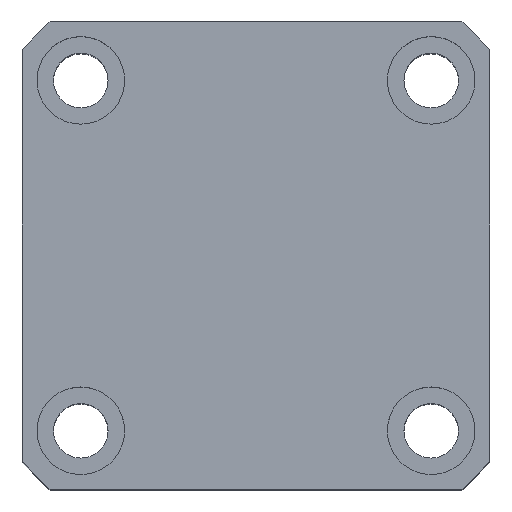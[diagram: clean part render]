
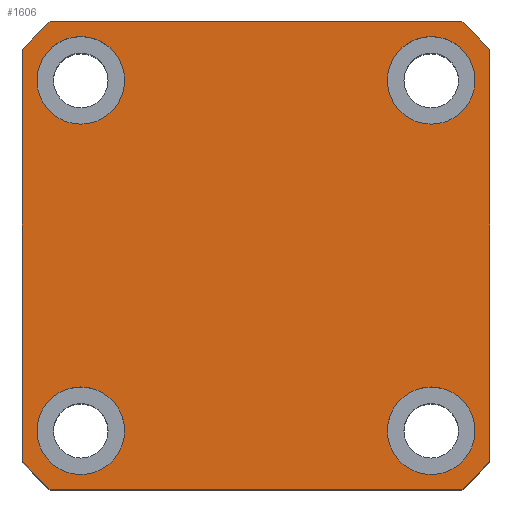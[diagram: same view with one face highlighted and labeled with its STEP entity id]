
A CAD part, top view. The second image highlights one B-rep face of the part: STEP entity #1606.
In plain terms, the highlighted planar face has unit normal (0, 0, 1) as drawn and (1, 0, 0) by its records, which use the part's own axes.
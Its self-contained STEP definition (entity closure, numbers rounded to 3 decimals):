
#10 = DIRECTION ( 'NONE',  ( 0., 0., -1. ) ) ;
#112 = DIRECTION ( 'NONE',  ( 0., 0., -1. ) ) ;
#139 = DIRECTION ( 'NONE',  ( 1., 0., 0. ) ) ;
#158 = CIRCLE ( 'NONE', #402, 4.5 ) ;
#237 = AXIS2_PLACEMENT_3D ( 'NONE', #4904, #1253, #5522 ) ;
#326 = EDGE_CURVE ( 'NONE', #3484, #3217, #6495, .T. ) ;
#402 = AXIS2_PLACEMENT_3D ( 'NONE', #5398, #1760, #6023 ) ;
#452 = DIRECTION ( 'NONE',  ( 0., 1., 0. ) ) ;
#624 = DIRECTION ( 'NONE',  ( 1., 0., 0. ) ) ;
#652 = CARTESIAN_POINT ( 'NONE',  ( 50., 21.166, -24. ) ) ;
#682 = DIRECTION ( 'NONE',  ( 0., -1., 0. ) ) ;
#771 = VERTEX_POINT ( 'NONE', #6546 ) ;
#819 = CARTESIAN_POINT ( 'NONE',  ( 50., 24., 24. ) ) ;
#837 = VERTEX_POINT ( 'NONE', #5995 ) ;
#841 = VERTEX_POINT ( 'NONE', #7854 ) ;
#951 = CIRCLE ( 'NONE', #4304, 4.5 ) ;
#952 = VERTEX_POINT ( 'NONE', #3836 ) ;
#1176 = EDGE_LOOP ( 'NONE', ( #1892, #1495 ) ) ;
#1179 = VERTEX_POINT ( 'NONE', #2577 ) ;
#1253 = DIRECTION ( 'NONE',  ( 1., 0., 0. ) ) ;
#1277 = CARTESIAN_POINT ( 'NONE',  ( 50., 18., 18. ) ) ;
#1362 = FACE_BOUND ( 'NONE', #7039, .T. ) ;
#1448 = CIRCLE ( 'NONE', #1678, 4.5 ) ;
#1465 = DIRECTION ( 'NONE',  ( 1., 0., 0. ) ) ;
#1470 = CARTESIAN_POINT ( 'NONE',  ( 50., 0., 0. ) ) ;
#1495 = ORIENTED_EDGE ( 'NONE', *, *, #3975, .F. ) ;
#1510 = AXIS2_PLACEMENT_3D ( 'NONE', #7493, #3852, #112 ) ;
#1520 = CARTESIAN_POINT ( 'NONE',  ( 50., 0., 0. ) ) ;
#1606 = ADVANCED_FACE ( 'NONE', ( #3040, #7691, #1362, #1941, #6050 ), #6943, .T. ) ;
#1678 = AXIS2_PLACEMENT_3D ( 'NONE', #4338, #624, #4914 ) ;
#1696 = EDGE_CURVE ( 'NONE', #6826, #2428, #2833, .T. ) ;
#1747 = VECTOR ( 'NONE', #10, 1000. ) ;
#1760 = DIRECTION ( 'NONE',  ( 1., 0., 0. ) ) ;
#1835 = AXIS2_PLACEMENT_3D ( 'NONE', #3167, #7406, #3778 ) ;
#1880 = CARTESIAN_POINT ( 'NONE',  ( 50., -24., 24. ) ) ;
#1892 = ORIENTED_EDGE ( 'NONE', *, *, #2906, .F. ) ;
#1896 = DIRECTION ( 'NONE',  ( 0., 0., -1. ) ) ;
#1940 = VERTEX_POINT ( 'NONE', #4156 ) ;
#1941 = FACE_BOUND ( 'NONE', #5322, .T. ) ;
#1972 = ORIENTED_EDGE ( 'NONE', *, *, #4569, .F. ) ;
#2022 = VERTEX_POINT ( 'NONE', #652 ) ;
#2091 = DIRECTION ( 'NONE',  ( 0., 0., -1. ) ) ;
#2149 = DIRECTION ( 'NONE',  ( 0., 0., -1. ) ) ;
#2162 = DIRECTION ( 'NONE',  ( 1., 0., 0. ) ) ;
#2163 = ORIENTED_EDGE ( 'NONE', *, *, #3176, .F. ) ;
#2164 = DIRECTION ( 'NONE',  ( 0., 0., 1. ) ) ;
#2251 = AXIS2_PLACEMENT_3D ( 'NONE', #1277, #5547, #1896 ) ;
#2264 = ORIENTED_EDGE ( 'NONE', *, *, #3433, .F. ) ;
#2369 = ORIENTED_EDGE ( 'NONE', *, *, #7122, .F. ) ;
#2428 = VERTEX_POINT ( 'NONE', #5280 ) ;
#2566 = ORIENTED_EDGE ( 'NONE', *, *, #3278, .F. ) ;
#2577 = CARTESIAN_POINT ( 'NONE',  ( 50., -18., -13.5 ) ) ;
#2626 = EDGE_CURVE ( 'NONE', #3205, #6416, #5352, .T. ) ;
#2664 = ORIENTED_EDGE ( 'NONE', *, *, #3541, .T. ) ;
#2767 = CARTESIAN_POINT ( 'NONE',  ( 50., -18., 13.5 ) ) ;
#2795 = CARTESIAN_POINT ( 'NONE',  ( 50., 24., 24. ) ) ;
#2833 = LINE ( 'NONE', #2795, #5653 ) ;
#2906 = EDGE_CURVE ( 'NONE', #837, #1179, #951, .T. ) ;
#2963 = ORIENTED_EDGE ( 'NONE', *, *, #1696, .T. ) ;
#2968 = ORIENTED_EDGE ( 'NONE', *, *, #326, .T. ) ;
#3040 = FACE_BOUND ( 'NONE', #1176, .T. ) ;
#3055 = AXIS2_PLACEMENT_3D ( 'NONE', #3400, #7648, #3998 ) ;
#3166 = ORIENTED_EDGE ( 'NONE', *, *, #4031, .T. ) ;
#3167 = CARTESIAN_POINT ( 'NONE',  ( 50., 18., -18. ) ) ;
#3176 = EDGE_CURVE ( 'NONE', #7311, #771, #158, .T. ) ;
#3205 = VERTEX_POINT ( 'NONE', #6003 ) ;
#3217 = VERTEX_POINT ( 'NONE', #4262 ) ;
#3278 = EDGE_CURVE ( 'NONE', #952, #5908, #1448, .T. ) ;
#3284 = CARTESIAN_POINT ( 'NONE',  ( 50., 18., -18. ) ) ;
#3295 = VECTOR ( 'NONE', #682, 1000. ) ;
#3384 = CARTESIAN_POINT ( 'NONE',  ( 50., 21.166, 24. ) ) ;
#3400 = CARTESIAN_POINT ( 'NONE',  ( 50., -18., 18. ) ) ;
#3433 = EDGE_CURVE ( 'NONE', #7489, #841, #7187, .T. ) ;
#3435 = CIRCLE ( 'NONE', #1835, 4.5 ) ;
#3484 = VERTEX_POINT ( 'NONE', #3384 ) ;
#3541 = EDGE_CURVE ( 'NONE', #2022, #6826, #5552, .T. ) ;
#3550 = ORIENTED_EDGE ( 'NONE', *, *, #7112, .F. ) ;
#3577 = CARTESIAN_POINT ( 'NONE',  ( 50., 24., -24. ) ) ;
#3616 = AXIS2_PLACEMENT_3D ( 'NONE', #1470, #5735, #2091 ) ;
#3668 = AXIS2_PLACEMENT_3D ( 'NONE', #3883, #139, #4475 ) ;
#3778 = DIRECTION ( 'NONE',  ( 0., 0., -1. ) ) ;
#3793 = EDGE_CURVE ( 'NONE', #2428, #3484, #7872, .T. ) ;
#3836 = CARTESIAN_POINT ( 'NONE',  ( 50., 18., 13.5 ) ) ;
#3852 = DIRECTION ( 'NONE',  ( 1., 0., 0. ) ) ;
#3883 = CARTESIAN_POINT ( 'NONE',  ( 50., 0., 0. ) ) ;
#3890 = DIRECTION ( 'NONE',  ( 0., 0., -1. ) ) ;
#3975 = EDGE_CURVE ( 'NONE', #1179, #837, #4421, .T. ) ;
#3998 = DIRECTION ( 'NONE',  ( 0., 0., -1. ) ) ;
#4003 = ORIENTED_EDGE ( 'NONE', *, *, #3793, .T. ) ;
#4031 = EDGE_CURVE ( 'NONE', #3217, #3205, #7284, .T. ) ;
#4156 = CARTESIAN_POINT ( 'NONE',  ( 50., -21.166, -24. ) ) ;
#4262 = CARTESIAN_POINT ( 'NONE',  ( 50., -21.166, 24. ) ) ;
#4304 = AXIS2_PLACEMENT_3D ( 'NONE', #5801, #2162, #6419 ) ;
#4338 = CARTESIAN_POINT ( 'NONE',  ( 50., 18., 18. ) ) ;
#4359 = CARTESIAN_POINT ( 'NONE',  ( 50., -24., -21.166 ) ) ;
#4376 = ORIENTED_EDGE ( 'NONE', *, *, #6248, .T. ) ;
#4421 = CIRCLE ( 'NONE', #1510, 4.5 ) ;
#4475 = DIRECTION ( 'NONE',  ( 0., 0., -1. ) ) ;
#4569 = EDGE_CURVE ( 'NONE', #771, #7311, #7581, .T. ) ;
#4579 = AXIS2_PLACEMENT_3D ( 'NONE', #5104, #1465, #5727 ) ;
#4733 = ORIENTED_EDGE ( 'NONE', *, *, #6600, .T. ) ;
#4814 = CIRCLE ( 'NONE', #2251, 4.5 ) ;
#4821 = ORIENTED_EDGE ( 'NONE', *, *, #2626, .T. ) ;
#4904 = CARTESIAN_POINT ( 'NONE',  ( 50., 0., 0. ) ) ;
#4914 = DIRECTION ( 'NONE',  ( 0., 0., -1. ) ) ;
#4927 = AXIS2_PLACEMENT_3D ( 'NONE', #3284, #7537, #3890 ) ;
#5038 = VECTOR ( 'NONE', #452, 1000. ) ;
#5104 = CARTESIAN_POINT ( 'NONE',  ( 50., 0., 0. ) ) ;
#5169 = CARTESIAN_POINT ( 'NONE',  ( 50., 18., 22.5 ) ) ;
#5275 = EDGE_LOOP ( 'NONE', ( #4376, #2664, #2963, #4003, #2968, #3166, #4821, #4733 ) ) ;
#5280 = CARTESIAN_POINT ( 'NONE',  ( 50., 24., 21.166 ) ) ;
#5322 = EDGE_LOOP ( 'NONE', ( #2566, #3550 ) ) ;
#5352 = LINE ( 'NONE', #1880, #1747 ) ;
#5398 = CARTESIAN_POINT ( 'NONE',  ( 50., -18., 18. ) ) ;
#5522 = DIRECTION ( 'NONE',  ( 0., 0., -1. ) ) ;
#5547 = DIRECTION ( 'NONE',  ( 1., 0., 0. ) ) ;
#5552 = CIRCLE ( 'NONE', #6175, 32. ) ;
#5653 = VECTOR ( 'NONE', #2164, 1000. ) ;
#5727 = DIRECTION ( 'NONE',  ( 0., 0., -1. ) ) ;
#5735 = DIRECTION ( 'NONE',  ( 1., 0., 0. ) ) ;
#5785 = DIRECTION ( 'NONE',  ( 1., 0., 0. ) ) ;
#5801 = CARTESIAN_POINT ( 'NONE',  ( 50., -18., -18. ) ) ;
#5908 = VERTEX_POINT ( 'NONE', #5169 ) ;
#5921 = CIRCLE ( 'NONE', #3668, 32. ) ;
#5995 = CARTESIAN_POINT ( 'NONE',  ( 50., -18., -22.5 ) ) ;
#6003 = CARTESIAN_POINT ( 'NONE',  ( 50., -24., 21.166 ) ) ;
#6023 = DIRECTION ( 'NONE',  ( 0., 0., -1. ) ) ;
#6050 = FACE_OUTER_BOUND ( 'NONE', #5275, .T. ) ;
#6175 = AXIS2_PLACEMENT_3D ( 'NONE', #1520, #5785, #2149 ) ;
#6248 = EDGE_CURVE ( 'NONE', #1940, #2022, #6876, .T. ) ;
#6416 = VERTEX_POINT ( 'NONE', #4359 ) ;
#6419 = DIRECTION ( 'NONE',  ( 0., 0., -1. ) ) ;
#6495 = LINE ( 'NONE', #819, #3295 ) ;
#6546 = CARTESIAN_POINT ( 'NONE',  ( 50., -18., 22.5 ) ) ;
#6559 = CARTESIAN_POINT ( 'NONE',  ( 50., 18., -22.5 ) ) ;
#6600 = EDGE_CURVE ( 'NONE', #6416, #1940, #5921, .T. ) ;
#6826 = VERTEX_POINT ( 'NONE', #7108 ) ;
#6876 = LINE ( 'NONE', #3577, #5038 ) ;
#6943 = PLANE ( 'NONE',  #4579 ) ;
#7039 = EDGE_LOOP ( 'NONE', ( #2264, #2369 ) ) ;
#7108 = CARTESIAN_POINT ( 'NONE',  ( 50., 24., -21.166 ) ) ;
#7112 = EDGE_CURVE ( 'NONE', #5908, #952, #4814, .T. ) ;
#7122 = EDGE_CURVE ( 'NONE', #841, #7489, #3435, .T. ) ;
#7187 = CIRCLE ( 'NONE', #4927, 4.5 ) ;
#7198 = EDGE_LOOP ( 'NONE', ( #2163, #1972 ) ) ;
#7284 = CIRCLE ( 'NONE', #3616, 32. ) ;
#7311 = VERTEX_POINT ( 'NONE', #2767 ) ;
#7406 = DIRECTION ( 'NONE',  ( 1., 0., 0. ) ) ;
#7489 = VERTEX_POINT ( 'NONE', #6559 ) ;
#7493 = CARTESIAN_POINT ( 'NONE',  ( 50., -18., -18. ) ) ;
#7537 = DIRECTION ( 'NONE',  ( 1., 0., 0. ) ) ;
#7581 = CIRCLE ( 'NONE', #3055, 4.5 ) ;
#7648 = DIRECTION ( 'NONE',  ( 1., 0., 0. ) ) ;
#7691 = FACE_BOUND ( 'NONE', #7198, .T. ) ;
#7854 = CARTESIAN_POINT ( 'NONE',  ( 50., 18., -13.5 ) ) ;
#7872 = CIRCLE ( 'NONE', #237, 32. ) ;
